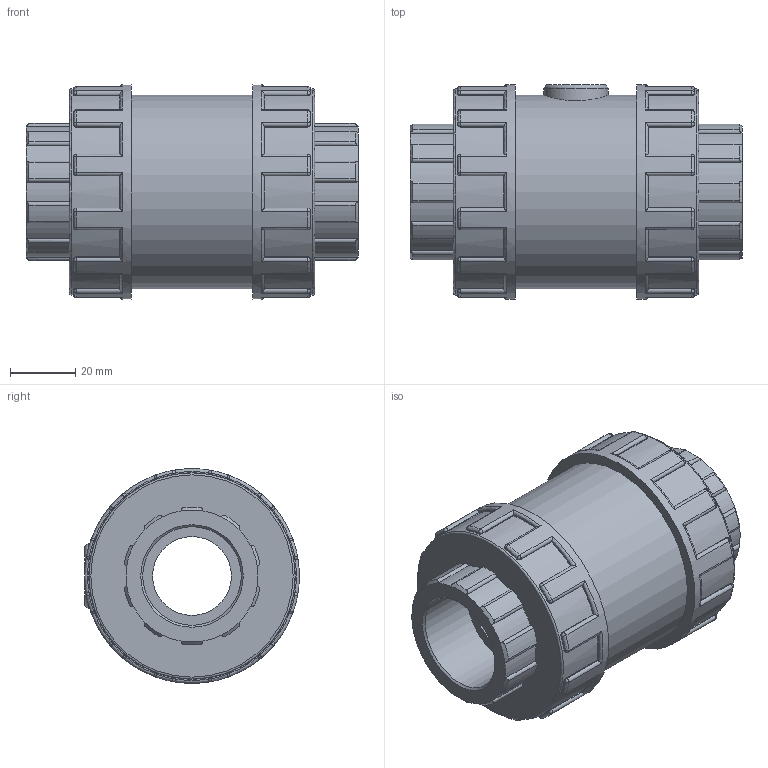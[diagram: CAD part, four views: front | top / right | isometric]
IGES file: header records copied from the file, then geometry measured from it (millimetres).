
Global section: file name: 116410010.ipt; native system: Autodesk Inventor 2015; preprocessor: unknown; author: KIM; date: 20171207.170709; units: millimetre
Bounding box: 102 x 66 x 66 mm (x, y, z)
Volume: 208262.3 mm3; surface area: 34596.7 mm2
Topology: 1 solids, 1 shells, 411 faces, 1033 edges, 630 vertices
Faces by surface type: cylinder 182, plane 105, revolution 56, sphere 48, cone 20
Full cylindrical faces by diameter (mm): 19.8 x1, 59.4 x1, 63.36 x2, 66 x2
